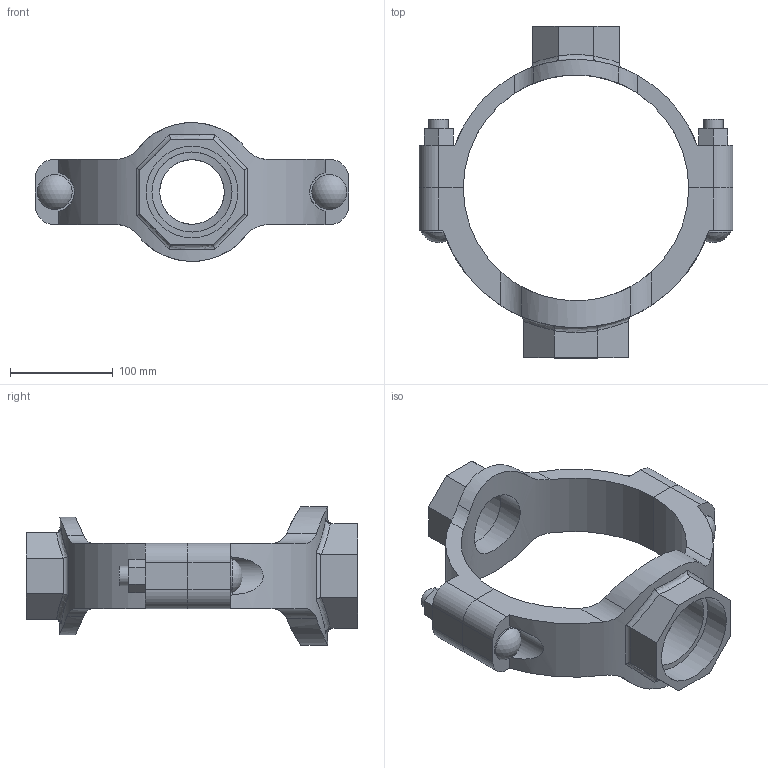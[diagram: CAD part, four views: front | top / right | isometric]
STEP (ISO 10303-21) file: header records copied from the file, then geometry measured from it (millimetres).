
FILE_DESCRIPTION(/* description */ ('VIC MECH-T BRANCH OUTLET CROSS STYLE 920N (THD)','CAx-IF Rec.Pracs.---Representation and Presentation of Product Manufacturing Information (PMI)---4.0---2014-10-13'),/* implementation_level */ '2;1');
FILE_NAME(/* name */ 'C:\Users\Vjadhav\AppData\Roaming\Autodesk\ApplicationPlugins\Back Up\Victaulic_IPS_Mechanical-Cross Outlet_Style 920N (FPT)\Victaulic_IPS_Mechanical-Cross Outlet_08.0x02.5 (76.1)x03.0 (200x65x80).stp',/* time_stamp */ '2020-08-06T19:01:03+06:00',/* author */ ('Vjadhav'),/* organization */ ('Victaulic'),/* preprocessor_version */ 'ST-DEVELOPER v17.2',/* originating_system */ 'Autodesk Inventor 2019',/* authorisation */ '');
FILE_SCHEMA (('AP242_MANAGED_MODEL_BASED_3D_ENGINEERING_MIM_LF { 1 0 10303 442 1 1 4 }'));
Length unit declared in the file: inch
Products named in the file (3): 920NT-08.0x02.5 (76.1)x03.0; 920T-08.0x02.5 (76.1); 920T-08.0x03.0
Assembly tree (2 placements, depth 2):
  920NT-08.0x02.5 (76.1)x03.0
    920T-08.0x02.5 (76.1)
    920T-08.0x03.0
Bounding box: 304.8 x 322.33 x 134.87 mm (x, y, z)
Volume: 1409605.8 mm3; surface area: 232118.6 mm2
Topology: 2 solids, 2 shells, 132 faces, 350 edges, 236 vertices
Faces by surface type: plane 68, cylinder 50, bspline 8, torus 4, sphere 2
Full cylindrical faces by diameter (mm): 19.05 x4, 33.843 x2, 62.738 x1, 76.2 x1, 77.787 x1, 88.9 x1
Entity records: 5227 total; most frequent: CARTESIAN_POINT 1714, ORIENTED_EDGE 700, DIRECTION 648, EDGE_CURVE 350, VERTEX_POINT 236, AXIS2_PLACEMENT_3D 231, LINE 186, VECTOR 186
